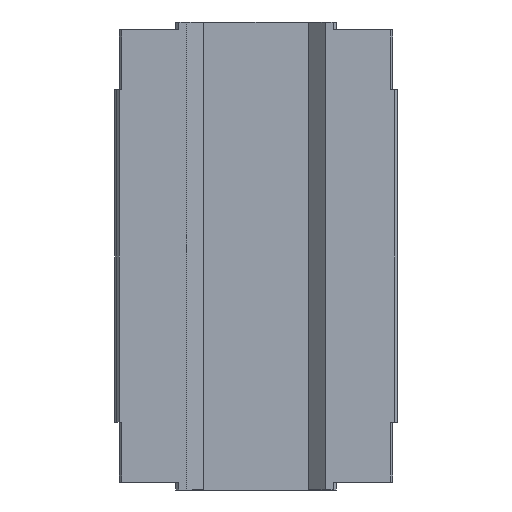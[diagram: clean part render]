
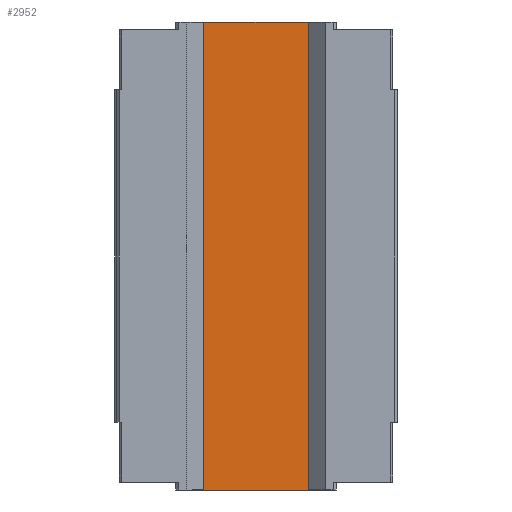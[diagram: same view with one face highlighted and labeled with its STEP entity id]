
A CAD part, front view. The second image highlights one B-rep face of the part: STEP entity #2952.
In plain terms, the highlighted planar face has unit normal (0, -1, 0).
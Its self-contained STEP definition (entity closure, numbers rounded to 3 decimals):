
#713 = FACE_OUTER_BOUND ( 'NONE', #9397, .T. ) ;
#900 = LINE ( 'NONE', #3970, #1029 ) ;
#1029 = VECTOR ( 'NONE', #3850, 1000. ) ;
#1267 = EDGE_CURVE ( 'NONE', #8215, #2196, #6292, .T. ) ;
#1848 = DIRECTION ( 'NONE',  ( -1., 0., 0. ) ) ;
#1889 = CARTESIAN_POINT ( 'NONE',  ( 26.5, 44., 82.85 ) ) ;
#2023 = LINE ( 'NONE', #2472, #2049 ) ;
#2049 = VECTOR ( 'NONE', #2505, 1000. ) ;
#2061 = VERTEX_POINT ( 'NONE', #3896 ) ;
#2146 = LINE ( 'NONE', #1889, #2319 ) ;
#2173 = ORIENTED_EDGE ( 'NONE', *, *, #3465, .T. ) ;
#2196 = VERTEX_POINT ( 'NONE', #9408 ) ;
#2319 = VECTOR ( 'NONE', #1848, 1000. ) ;
#2347 = VECTOR ( 'NONE', #2424, 1000. ) ;
#2410 = AXIS2_PLACEMENT_3D ( 'NONE', #4245, #4053, #4040 ) ;
#2424 = DIRECTION ( 'NONE',  ( 0., 0., -1. ) ) ;
#2460 = CARTESIAN_POINT ( 'NONE',  ( 18.55, 44., -77.85 ) ) ;
#2472 = CARTESIAN_POINT ( 'NONE',  ( -26.5, 44., -82.85 ) ) ;
#2505 = DIRECTION ( 'NONE',  ( 1., 0., 0. ) ) ;
#2952 = ADVANCED_FACE ( 'NONE', ( #713 ), #4080, .F. ) ;
#2992 = EDGE_CURVE ( 'NONE', #2061, #8352, #900, .T. ) ;
#3378 = EDGE_CURVE ( 'NONE', #8352, #2196, #2023, .T. ) ;
#3465 = EDGE_CURVE ( 'NONE', #8215, #2061, #2146, .T. ) ;
#3850 = DIRECTION ( 'NONE',  ( 0., 0., -1. ) ) ;
#3896 = CARTESIAN_POINT ( 'NONE',  ( -18.55, 44., 82.85 ) ) ;
#3970 = CARTESIAN_POINT ( 'NONE',  ( -18.55, 44., 89.093 ) ) ;
#4040 = DIRECTION ( 'NONE',  ( 0., 0., 1. ) ) ;
#4053 = DIRECTION ( 'NONE',  ( 0., 1., 0. ) ) ;
#4080 = PLANE ( 'NONE',  #2410 ) ;
#4245 = CARTESIAN_POINT ( 'NONE',  ( -26.5, 44., -77.85 ) ) ;
#6267 = ORIENTED_EDGE ( 'NONE', *, *, #2992, .T. ) ;
#6292 = LINE ( 'NONE', #2460, #2347 ) ;
#6692 = CARTESIAN_POINT ( 'NONE',  ( -18.55, 44., -82.85 ) ) ;
#7817 = CARTESIAN_POINT ( 'NONE',  ( 18.55, 44., 82.85 ) ) ;
#8215 = VERTEX_POINT ( 'NONE', #7817 ) ;
#8352 = VERTEX_POINT ( 'NONE', #6692 ) ;
#8652 = ORIENTED_EDGE ( 'NONE', *, *, #1267, .F. ) ;
#9397 = EDGE_LOOP ( 'NONE', ( #6267, #10424, #8652, #2173 ) ) ;
#9408 = CARTESIAN_POINT ( 'NONE',  ( 18.55, 44., -82.85 ) ) ;
#10424 = ORIENTED_EDGE ( 'NONE', *, *, #3378, .T. ) ;
